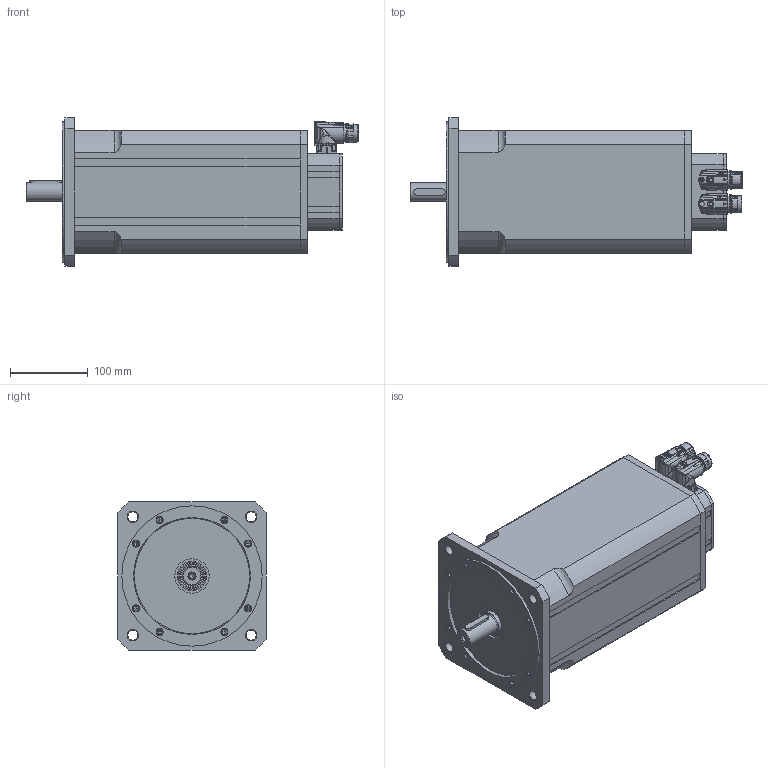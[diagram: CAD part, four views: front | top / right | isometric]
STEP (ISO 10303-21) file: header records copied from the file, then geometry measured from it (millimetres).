
FILE_DESCRIPTION(/* description */ (''),/* implementation_level */ '2;1');
FILE_NAME(/* name */ 'C:\PDF_output\T6000 00 BP Z_2900_S4_S2_6P_12P.stp',/* time_stamp */ '2023-08-17T07:48:18+02:00',/* author */ ('oslejsek'),/* organization */ (''),/* preprocessor_version */ 'ST-DEVELOPER v18.1',/* originating_system */ 'Autodesk Inventor 2021',/* authorisation */ '');
FILE_SCHEMA (('AUTOMOTIVE_DESIGN { 1 0 10303 214 3 1 1 }'));
Products named in the file (9): T6000 00 BP Z_2900_S4_S2_6P_12P; T6000 00 BP Z_rear; T6000 00 BP Z_front; BED_0201 Flansch 25x25  6-polig mit Stiften; 124953; 124888; AED_0201_12-polig, Stift; 124888_1; 127323
Assembly tree (8 placements, depth 3):
  T6000 00 BP Z_2900_S4_S2_6P_12P
    T6000 00 BP Z_rear
    T6000 00 BP Z_front
    BED_0201 Flansch 25x25  6-polig mit Stiften
      124953
      124888
    AED_0201_12-polig, Stift
      124888_1
      127323
Bounding box: 426.16 x 190 x 190 mm (x, y, z)
Volume: 7906863.2 mm3; surface area: 415225.9 mm2
Topology: 7 solids, 64 shells, 2432 faces, 5885 edges, 3656 vertices
Faces by surface type: cylinder 951, plane 804, bspline 261, cone 220, torus 154, sphere 42
Full cylindrical faces by diameter (mm): 1 x12, 1.18 x12, 1.2 x12, 2 x7, 2.013 x8, 2.15 x6, 2.208 x8, 2.4 x8, 2.459 x10, 2.5 x8, 2.7 x4, 3 x8, 3.1 x4, 3.2 x4, 3.242 x5, 3.3 x4, 3.545 x4, 3.95 x4, 4 x4, 4.134 x16, 4.4 x4, 4.5 x2, 4.917 x4, 5 x24, 5.3 x16, 5.5 x6, 5.7 x3, 5.9 x2, 6.5 x4, 6.647 x1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
Entity records: 87384 total; most frequent: CARTESIAN_POINT 28646, DIRECTION 11820, ORIENTED_EDGE 11574, EDGE_CURVE 5787, AXIS2_PLACEMENT_3D 4849, VERTEX_POINT 3676, EDGE_LOOP 2785, CIRCLE 2450
